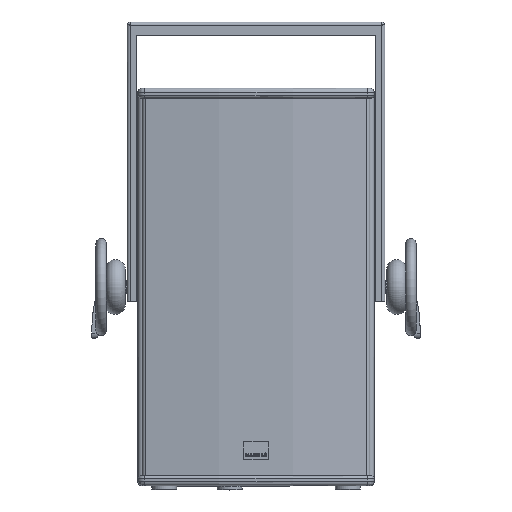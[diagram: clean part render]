
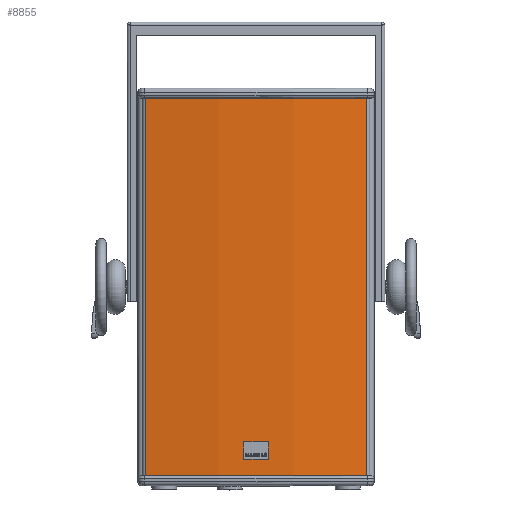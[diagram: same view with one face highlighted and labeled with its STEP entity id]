
A CAD part, top view. The second image highlights one B-rep face of the part: STEP entity #8855.
In plain terms, the highlighted cylindrical face has radius 952.205 mm (diameter 1904.41 mm), a partial arc.
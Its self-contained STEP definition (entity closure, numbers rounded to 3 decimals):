
#8834 = VERTEX_POINT ( 'NONE', #23132 ) ;
#8835 = ORIENTED_EDGE ( 'NONE', *, *, #8836, .F. ) ;
#8836 = EDGE_CURVE ( 'NONE', #8837, #8834, #23131, .T. ) ;
#8837 = VERTEX_POINT ( 'NONE', #23126 ) ;
#8838 = ORIENTED_EDGE ( 'NONE', *, *, #8839, .F. ) ;
#8839 = EDGE_CURVE ( 'NONE', #8858, #8837, #23125, .T. ) ;
#8853 = EDGE_LOOP ( 'NONE', ( #8856, #8860, #8835, #8838 ) ) ;
#8855 = ADVANCED_FACE ( 'NONE', ( #23104 ), #23103, .T. ) ;
#8856 = ORIENTED_EDGE ( 'NONE', *, *, #8857, .T. ) ;
#8857 = EDGE_CURVE ( 'NONE', #8858, #8859, #23162, .T. ) ;
#8858 = VERTEX_POINT ( 'NONE', #23157 ) ;
#8859 = VERTEX_POINT ( 'NONE', #23156 ) ;
#8860 = ORIENTED_EDGE ( 'NONE', *, *, #8861, .F. ) ;
#8861 = EDGE_CURVE ( 'NONE', #8834, #8859, #23155, .T. ) ;
#23101 = CARTESIAN_POINT ( 'NONE',  ( 251.565, 957.731, 0. ) ) ;
#23102 = AXIS2_PLACEMENT_3D ( 'NONE', #23101, #23164, #23163 ) ;
#23103 = CYLINDRICAL_SURFACE ( 'NONE', #23102, 952.205 ) ;
#23104 = FACE_OUTER_BOUND ( 'NONE', #8853, .T. ) ;
#23122 = DIRECTION ( 'NONE',  ( 0., 0., 1. ) ) ;
#23123 = VECTOR ( 'NONE', #23122, 1000. ) ;
#23124 = CARTESIAN_POINT ( 'NONE',  ( 82.705, 20.618, 0. ) ) ;
#23125 = LINE ( 'NONE', #23124, #23123 ) ;
#23126 = CARTESIAN_POINT ( 'NONE',  ( 82.705, 20.618, 576. ) ) ;
#23127 = DIRECTION ( 'NONE',  ( 1., 0., 0. ) ) ;
#23128 = DIRECTION ( 'NONE',  ( 0., 0., 1. ) ) ;
#23129 = CARTESIAN_POINT ( 'NONE',  ( 251.565, 957.731, 576. ) ) ;
#23130 = AXIS2_PLACEMENT_3D ( 'NONE', #23129, #23128, #23127 ) ;
#23131 = CIRCLE ( 'NONE', #23130, 952.205 ) ;
#23132 = CARTESIAN_POINT ( 'NONE',  ( 420.425, 20.618, 576. ) ) ;
#23152 = DIRECTION ( 'NONE',  ( 0., 0., -1. ) ) ;
#23153 = VECTOR ( 'NONE', #23152, 1000. ) ;
#23154 = CARTESIAN_POINT ( 'NONE',  ( 420.425, 20.618, 0. ) ) ;
#23155 = LINE ( 'NONE', #23154, #23153 ) ;
#23156 = CARTESIAN_POINT ( 'NONE',  ( 420.425, 20.618, 0. ) ) ;
#23157 = CARTESIAN_POINT ( 'NONE',  ( 82.705, 20.618, 0. ) ) ;
#23158 = DIRECTION ( 'NONE',  ( 1., 0., 0. ) ) ;
#23159 = DIRECTION ( 'NONE',  ( 0., 0., 1. ) ) ;
#23160 = CARTESIAN_POINT ( 'NONE',  ( 251.565, 957.731, 0. ) ) ;
#23161 = AXIS2_PLACEMENT_3D ( 'NONE', #23160, #23159, #23158 ) ;
#23162 = CIRCLE ( 'NONE', #23161, 952.205 ) ;
#23163 = DIRECTION ( 'NONE',  ( 1., 0., 0. ) ) ;
#23164 = DIRECTION ( 'NONE',  ( 0., 0., 1. ) ) ;
